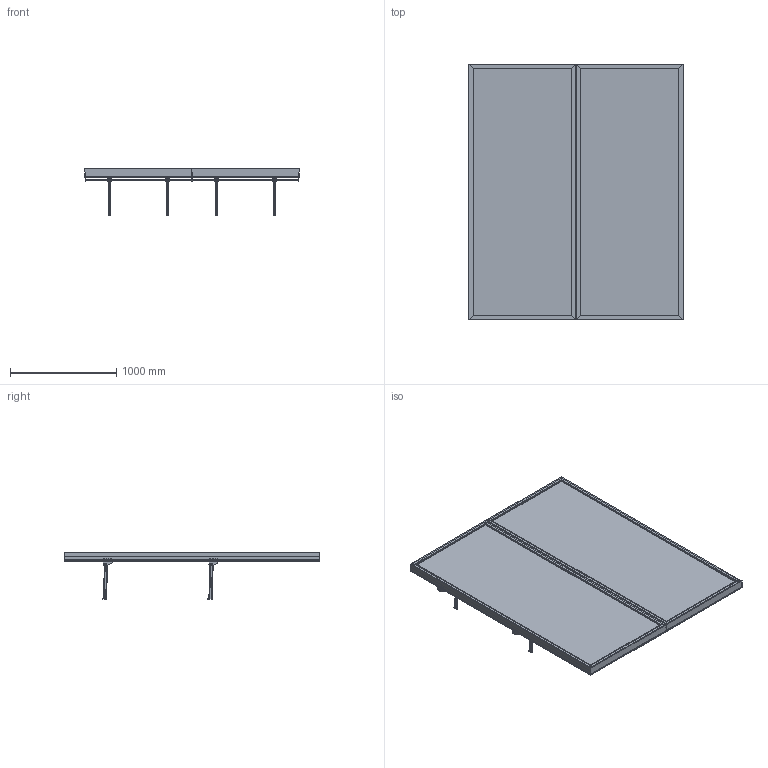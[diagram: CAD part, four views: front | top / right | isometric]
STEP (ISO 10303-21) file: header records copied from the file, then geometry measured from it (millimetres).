
FILE_DESCRIPTION (( 'STEP AP214' ), '1' );
FILE_NAME ('Slotted UpBright? Golf Pro Shop Apparel Wall (Config 4).STEP', '2026-03-30T16:41:45', ( '' ), ( '' ), 'SwSTEP 2.0', 'SolidWorks 2025', '' );
FILE_SCHEMA (( 'AUTOMOTIVE_DESIGN' ));
Length unit declared in the file: millimetre
Products named in the file (9): Slotted UpBright® Golf Pro Shop Apparel Wall (Config 4); 0001-31-131; 0001-31-112; 0001-31-GA10 - 1005W Slotted upbright; 0001-31-103; 0001-31-104; 0001-31-SA26 - 1005W Rear support Bar; 0001-31-SA27 - Forward Facing Arm; 0001-31-110
Assembly tree (20 placements, depth 3):
  Slotted UpBright® Golf Pro Shop Apparel Wall (Config 4)
    0001-31-GA10 - 1005W Slotted upbright  x2
    0001-31-SA26 - 1005W Rear support Bar  x4
      0001-31-103
      0001-31-131
    0001-31-SA27 - Forward Facing Arm  x8
      0001-31-104
      0001-31-112
      0001-31-110
Bounding box: 2011.48 x 2400 x 436.21 mm (x, y, z)
Volume: 16817014.7 mm3; surface area: 24910890.4 mm2
Topology: 48 solids, 48 shells, 1832 faces, 6096 edges, 4064 vertices
Faces by surface type: plane 1512, cylinder 320
Entity records: 26963 total; most frequent: CARTESIAN_POINT 5143, ORIENTED_EDGE 4932, DIRECTION 3856, EDGE_CURVE 2466, LINE 2310, VECTOR 2310, VERTEX_POINT 1644, EDGE_LOOP 862
